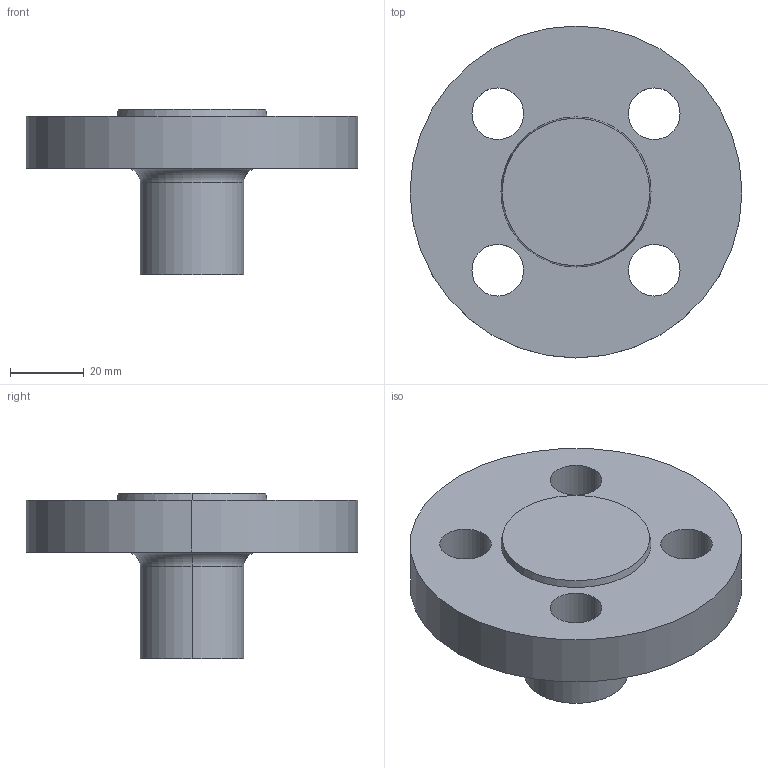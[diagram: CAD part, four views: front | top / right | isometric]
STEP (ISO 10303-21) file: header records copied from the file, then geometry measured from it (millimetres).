
FILE_DESCRIPTION (( 'STEP AP214' ), '1' );
FILE_NAME ('PN40 DN10 Type 21(i) - Type B Face.STEP', '2018-12-29T05:08:58', ( '' ), ( '' ), 'SwSTEP 2.0', 'SolidWorks 2019', '' );
FILE_SCHEMA (( 'AUTOMOTIVE_DESIGN' ));
Length unit declared in the file: millimetre
Products named in the file (1): PN40 DN10 Type 21(i) - Type B Face
Bounding box: 90 x 90 x 45 mm (x, y, z)
Volume: 101179.6 mm3; surface area: 20533.2 mm2
Topology: 1 solids, 1 shells, 20 faces, 46 edges, 30 vertices
Faces by surface type: cylinder 12, plane 4, torus 2, cone 2
Entity records: 636 total; most frequent: DIRECTION 120, CARTESIAN_POINT 97, ORIENTED_EDGE 92, AXIS2_PLACEMENT_3D 53, EDGE_CURVE 46, CIRCLE 32, EDGE_LOOP 30, VERTEX_POINT 30
